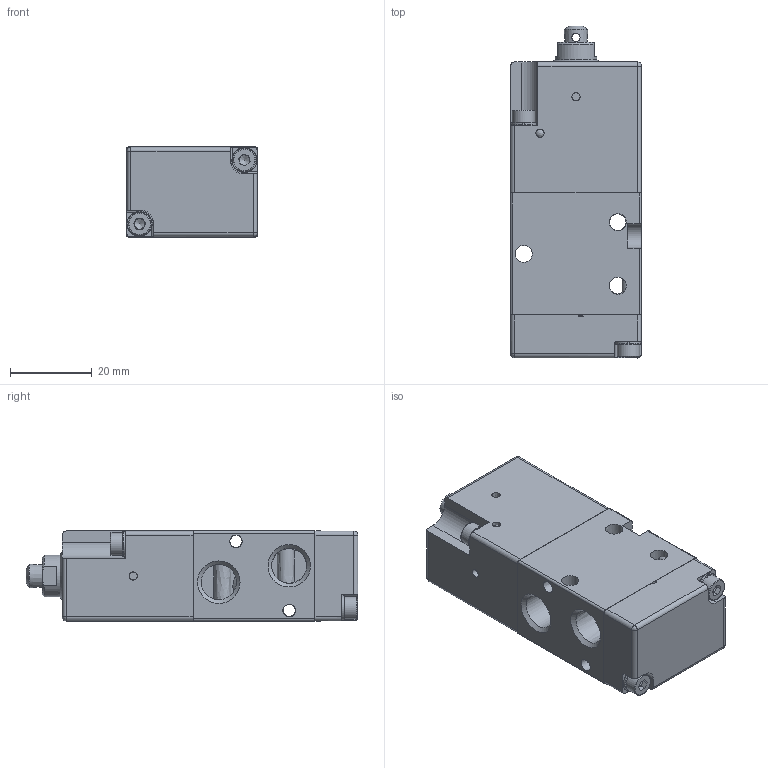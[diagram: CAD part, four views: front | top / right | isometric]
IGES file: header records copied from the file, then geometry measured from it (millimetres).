
Start section: SolidWorks IGES file using analytic representation for surfaces
Global section: file name: K:\Disegni Esecutivi\Elettrovalvole\ASSIEMI_IGS\01VV03NC02A.IGS; native system: SolidWorks 2012; preprocessor: SolidWorks 2012; author: cad05; date: 130918.082922; units: millimetre
Bounding box: 32 x 81.1 x 22 mm (x, y, z)
Surface area: 12947.5 mm2 (no closed solid volume)
Topology: 0 solids, 0 shells, 204 faces, 1390 edges, 1308 vertices
Faces by surface type: revolution 108, bspline 96
